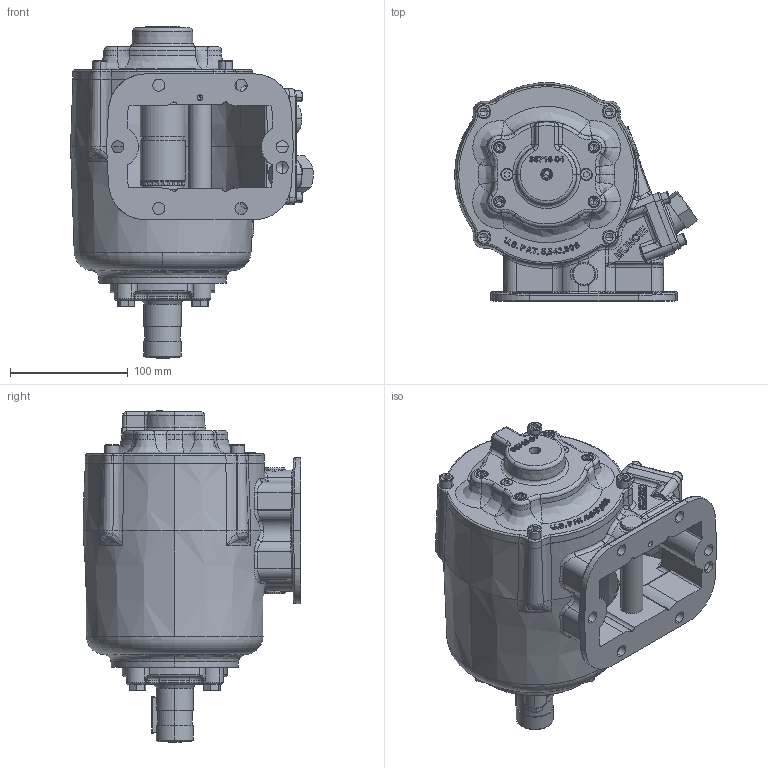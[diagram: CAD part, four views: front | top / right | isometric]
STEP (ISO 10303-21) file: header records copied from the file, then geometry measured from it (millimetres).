
FILE_DESCRIPTION (( 'STEP AP203' ), '1' );
FILE_NAME ('CS6S-A6804-E1BS.STEP', '2023-04-04T18:27:09', ( '' ), ( '' ), 'SwSTEP 2.0', 'SolidWorks 2021', '' );
FILE_SCHEMA (( 'CONFIG_CONTROL_DESIGN' ));
Length unit declared in the file: millimetre
Products named in the file (23): 01T37073; 15T36717; 25T21684; 12T36751; 19T35237; 15T41683; 19T36082; 16T35523; 19T36174; CS6S-A6804-E1BS; 19T38266; 25T35565; 06t36892; 15TA5220_Config1; 12T35949; 12T34003; 27T36173_Free Length; 19T34717; 19T41118; 26T01627; 07T37071; 10T21017; 28T36546
Assembly tree (39 placements, depth 3):
  CS6S-A6804-E1BS
    01T37073
    19T41118  x4
    15T36717
    12T34003
    19T35237  x4
    10T21017
    12T36751
    28T36546
    07T37071
    12T35949  x2
    27T36173_Free Length  x4
    19T36174  x4
    25T21684  x2
    16T35523
    25T35565
    19T34717  x4
    26T01627
    19T36082
    19T38266
    15TA5220_Config1
      15T41683
    06t36892
Bounding box: 206.43 x 185.25 x 282.13 mm (x, y, z)
Volume: 1482373.9 mm3; surface area: 424668 mm2
Topology: 38 solids, 38 shells, 2491 faces, 6240 edges, 3807 vertices
Faces by surface type: bspline 741, plane 629, cylinder 563, cone 351, torus 175, sphere 32
Entity records: 149214 total; most frequent: CARTESIAN_POINT 100787, ORIENTED_EDGE 10678, DIRECTION 7528, EDGE_CURVE 5339, VERTEX_POINT 3330, AXIS2_PLACEMENT_3D 2926, EDGE_LOOP 2313, B_SPLINE_CURVE_WITH_KNOTS 2128
